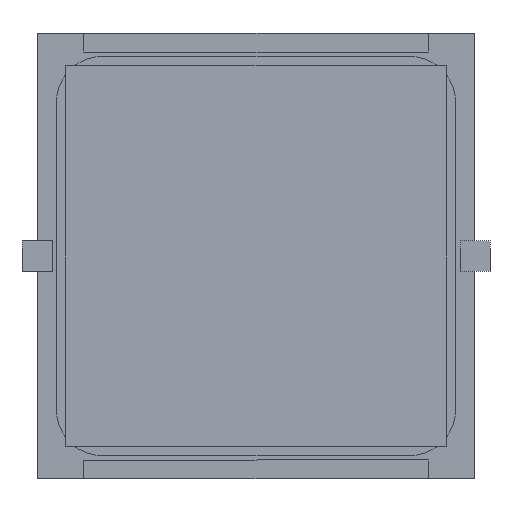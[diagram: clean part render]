
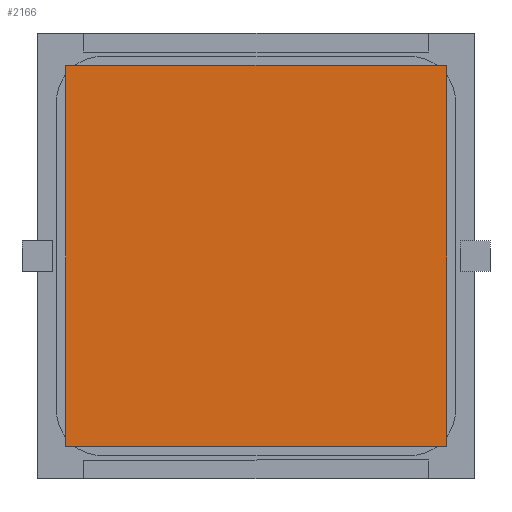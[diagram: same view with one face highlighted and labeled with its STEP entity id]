
A CAD part, front view. The second image highlights one B-rep face of the part: STEP entity #2166.
In plain terms, the highlighted planar face has unit normal (0, -1, 0).
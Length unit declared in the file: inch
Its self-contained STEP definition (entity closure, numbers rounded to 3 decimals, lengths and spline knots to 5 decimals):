
#289 = PLANE ( 'NONE',  #6292 ) ;
#599 = ORIENTED_EDGE ( 'NONE', *, *, #11176, .F. ) ;
#853 = EDGE_LOOP ( 'NONE', ( #8702, #599, #2174, #5899 ) ) ;
#1155 = DIRECTION ( 'NONE',  ( 0., 1., 0. ) ) ;
#1272 = EDGE_CURVE ( 'NONE', #3833, #3815, #9548, .T. ) ;
#1522 = DIRECTION ( 'NONE',  ( 1., 0., 0. ) ) ;
#1894 = LINE ( 'NONE', #7123, #4510 ) ;
#2166 = ADVANCED_FACE ( 'NONE', ( #9897 ), #289, .F. ) ;
#2174 = ORIENTED_EDGE ( 'NONE', *, *, #9212, .F. ) ;
#2795 = VECTOR ( 'NONE', #9194, 39.37008 ) ;
#2830 = VERTEX_POINT ( 'NONE', #7521 ) ;
#2877 = DIRECTION ( 'NONE',  ( 0., 0., 1. ) ) ;
#3815 = VERTEX_POINT ( 'NONE', #6928 ) ;
#3818 = CARTESIAN_POINT ( 'NONE',  ( -0.5, -0.005, -0.5 ) ) ;
#3833 = VERTEX_POINT ( 'NONE', #4459 ) ;
#4459 = CARTESIAN_POINT ( 'NONE',  ( -0.5, -0.005, 0.5 ) ) ;
#4510 = VECTOR ( 'NONE', #8816, 39.37008 ) ;
#4661 = LINE ( 'NONE', #3818, #2795 ) ;
#5453 = CARTESIAN_POINT ( 'NONE',  ( 0.5, -0.005, -0.5 ) ) ;
#5899 = ORIENTED_EDGE ( 'NONE', *, *, #1272, .F. ) ;
#6053 = CARTESIAN_POINT ( 'NONE',  ( -0.5, -0.005, 0.5 ) ) ;
#6292 = AXIS2_PLACEMENT_3D ( 'NONE', #8008, #1155, #8172 ) ;
#6461 = EDGE_CURVE ( 'NONE', #2830, #3833, #7227, .T. ) ;
#6928 = CARTESIAN_POINT ( 'NONE',  ( 0.5, -0.005, 0.5 ) ) ;
#7053 = VERTEX_POINT ( 'NONE', #5453 ) ;
#7123 = CARTESIAN_POINT ( 'NONE',  ( 0.5, -0.005, -0.5 ) ) ;
#7227 = LINE ( 'NONE', #10743, #7810 ) ;
#7521 = CARTESIAN_POINT ( 'NONE',  ( -0.5, -0.005, -0.5 ) ) ;
#7523 = VECTOR ( 'NONE', #1522, 39.37008 ) ;
#7810 = VECTOR ( 'NONE', #2877, 39.37008 ) ;
#8008 = CARTESIAN_POINT ( 'NONE',  ( -0.5, -0.005, 0.5 ) ) ;
#8172 = DIRECTION ( 'NONE',  ( 0., 0., 1. ) ) ;
#8702 = ORIENTED_EDGE ( 'NONE', *, *, #6461, .F. ) ;
#8816 = DIRECTION ( 'NONE',  ( 0., 0., -1. ) ) ;
#9194 = DIRECTION ( 'NONE',  ( -1., 0., 0. ) ) ;
#9212 = EDGE_CURVE ( 'NONE', #3815, #7053, #1894, .T. ) ;
#9548 = LINE ( 'NONE', #6053, #7523 ) ;
#9897 = FACE_OUTER_BOUND ( 'NONE', #853, .T. ) ;
#10743 = CARTESIAN_POINT ( 'NONE',  ( -0.5, -0.005, -0.5 ) ) ;
#11176 = EDGE_CURVE ( 'NONE', #7053, #2830, #4661, .T. ) ;
